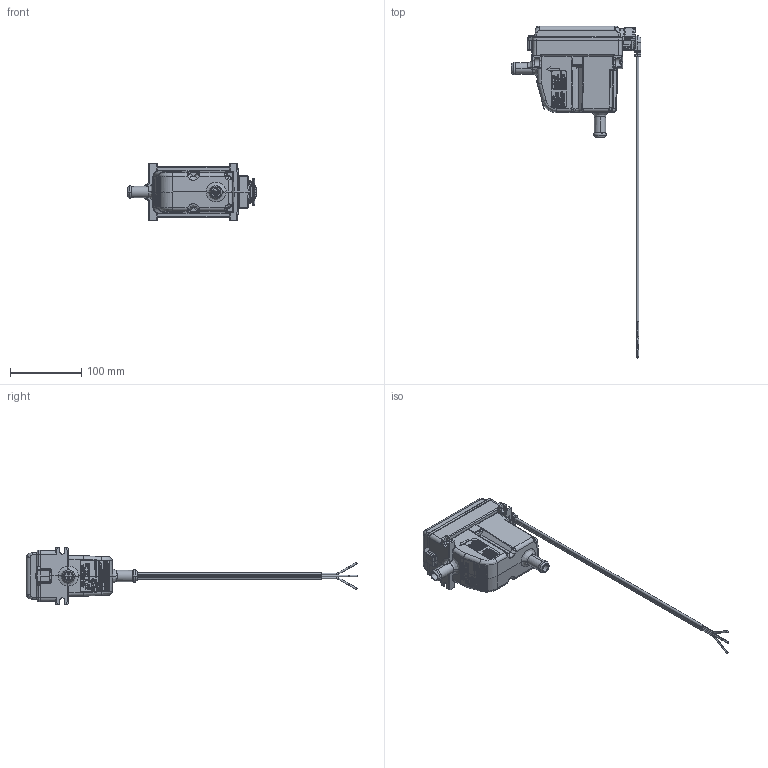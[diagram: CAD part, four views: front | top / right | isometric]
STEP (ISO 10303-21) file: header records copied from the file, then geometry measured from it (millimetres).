
FILE_DESCRIPTION (( 'STEP AP214' ), '1' );
FILE_NAME ('3305076.STEP', '2019-04-12T17:14:08', ( 'admin' ), ( '' ), 'SwSTEP 2.0', 'SolidWorks 2018', '' );
FILE_SCHEMA (( 'AUTOMOTIVE_DESIGN' ));
Length unit declared in the file: inch
Products named in the file (1): 3305076
Bounding box: 181.36 x 464.37 x 79.32 mm (x, y, z)
Surface area: 91441.3 mm2 (no closed solid volume)
Topology: 0 solids, 736 shells, 1922 faces, 44052 edges, 42695 vertices
Faces by surface type: plane 1517, cylinder 249, bspline 94, torus 23, cone 21, sphere 18
Entity records: 410329 total; most frequent: CARTESIAN_POINT 103612, DIRECTION 47664, ORIENTED_EDGE 46121, EDGE_CURVE 44048, LINE 42984, VECTOR 42984, VERTEX_POINT 42695, EDGE_LOOP 3662
